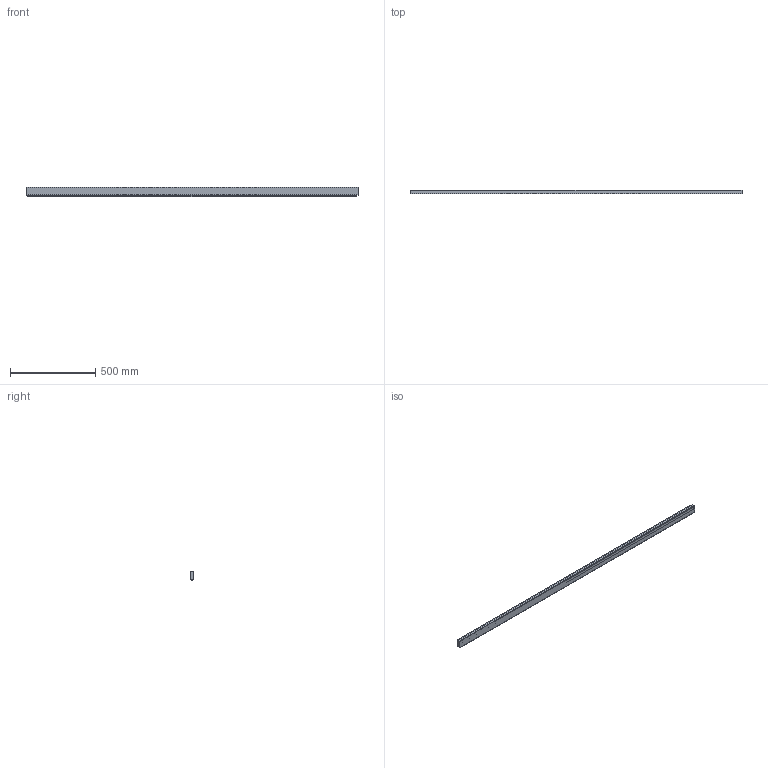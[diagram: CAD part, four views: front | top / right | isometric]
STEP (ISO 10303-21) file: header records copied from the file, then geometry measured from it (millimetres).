
FILE_DESCRIPTION( ( '' ), '1' );
FILE_NAME( 'D:/temp/hettich_stp/hettich/prodecor_handles/new_modern/9065683.stp', '2013-02-26T12:41:51', ( '' ), ( '' ), ' ', ' ', ' ' );
FILE_SCHEMA( ( 'automotive_design' ) );
Length unit declared in the file: millimetre
Products named in the file (1): 1
Bounding box: 1950 x 21.1 x 56.5 mm (x, y, z)
Volume: 720160.1 mm3; surface area: 415692.3 mm2
Topology: 1 solids, 1 shells, 104 faces, 299 edges, 198 vertices
Faces by surface type: cylinder 54, plane 50
Entity records: 6780 total; most frequent: DIRECTION 617, STYLED_ITEM 602, PRESENTATION_STYLE_ASSIGNMENT 602, CARTESIAN_POINT 602, COLOUR_RGB 602, ORIENTED_EDGE 598, EDGE_CURVE 299, CURVE_STYLE 299
